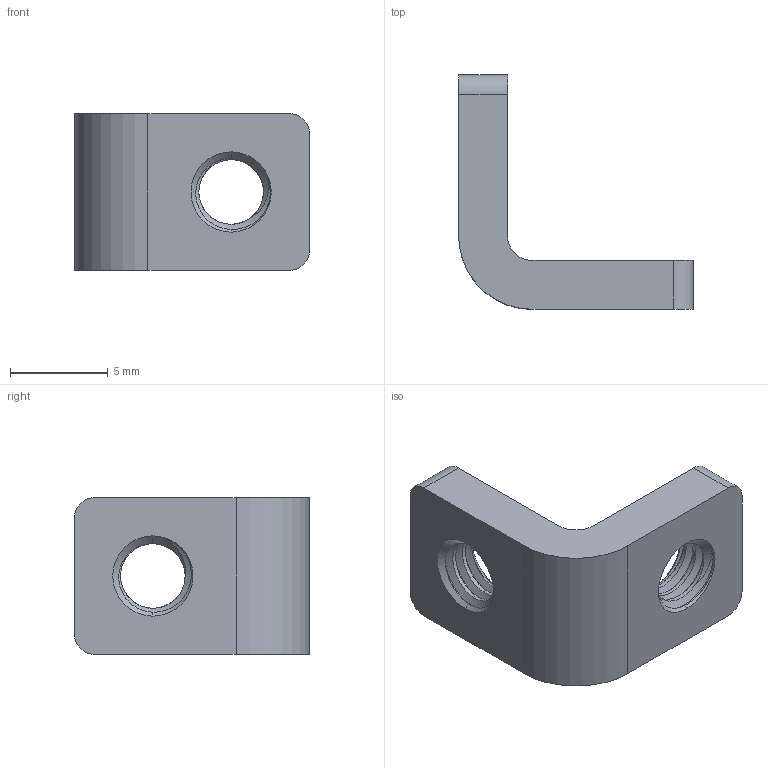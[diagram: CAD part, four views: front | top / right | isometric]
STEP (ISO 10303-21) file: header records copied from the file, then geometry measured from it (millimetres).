
FILE_DESCRIPTION (( 'STEP AP203' ), '1' );
FILE_NAME ('1147-0001-0001.STEP', '2024-11-25T19:36:16', ( '' ), ( '' ), 'SwSTEP 2.0', 'SolidWorks 2016', '' );
FILE_SCHEMA (( 'CONFIG_CONTROL_DESIGN' ));
Length unit declared in the file: millimetre
Products named in the file (1): 1147-0001-0001
Bounding box: 12 x 12 x 8 mm (x, y, z)
Volume: 353.6 mm3; surface area: 500 mm2
Topology: 1 solids, 1 shells, 57 faces, 163 edges, 108 vertices
Faces by surface type: cylinder 36, cone 9, plane 8, bspline 4
Entity records: 6656 total; most frequent: CARTESIAN_POINT 5260, ORIENTED_EDGE 326, DIRECTION 233, EDGE_CURVE 163, VERTEX_POINT 108, AXIS2_PLACEMENT_3D 87, EDGE_LOOP 61, VECTOR 59
